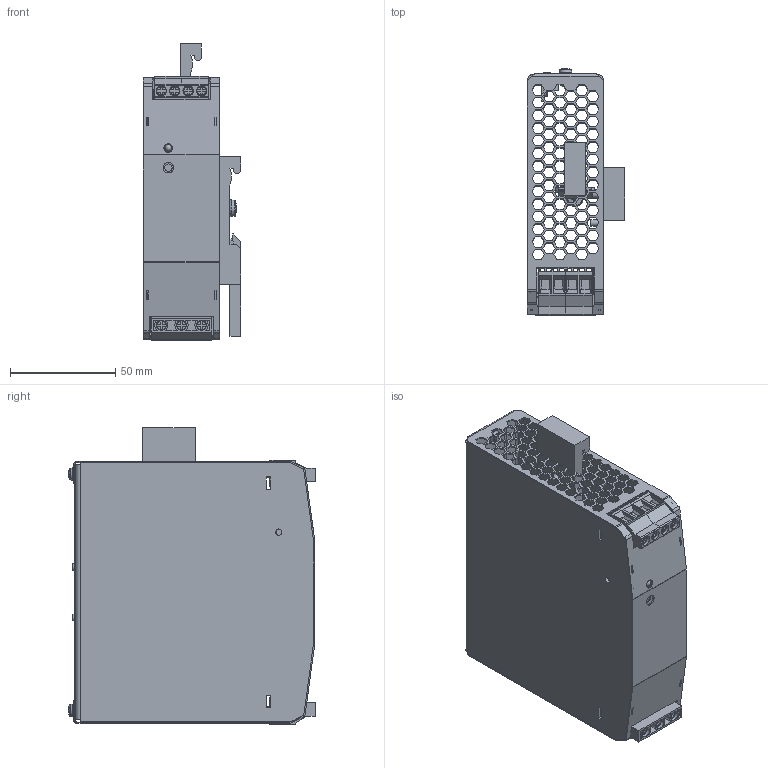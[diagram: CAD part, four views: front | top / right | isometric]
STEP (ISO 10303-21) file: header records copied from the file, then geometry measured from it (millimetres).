
FILE_DESCRIPTION( ( 'Unknown' ), '1' );
FILE_NAME( 'J:/DESBAKUP/3D DATA/TIB/TIB_120/Customer Model/TIB_120_Option.stp', 'Unknown', ( 'Unknown' ), ( 'Unknown' ), 'PSStep 14.0', 'Unknown', ' ' );
FILE_SCHEMA( ( 'AUTOMOTIVE_DESIGN { 1 0 10303 214 1 1 1 1 }' ) );
Length unit declared in the file: millimetre
Products named in the file (15): Assem1; MODULE; DIN_HOOK; DIN_LATCH; SCREW1-oa0
Bounding box: 46 x 117.03 x 140.55 mm (x, y, z)
Volume: 155578.6 mm3; surface area: 203292.3 mm2
Topology: 28 solids, 28 shells, 4354 faces, 12890 edges, 8684 vertices
Faces by surface type: plane 3656, cylinder 390, bspline 160, cone 72, torus 68, sphere 8
Full cylindrical faces by diameter (mm): 0.2 x12, 0.5 x4, 2 x2, 2.459 x4, 3 x24, 3.005 x8, 3.2 x18, 3.5 x10, 3.7 x4, 4 x18, 4.3 x2, 4.5 x6, 4.602 x8, 4.749 x8, 4.77 x6, 4.8 x12, 4.901 x8, 4.904 x8, 5 x2, 5.2 x2, 5.6 x10
Entity records: 95423 total; most frequent: CARTESIAN_POINT 20796, ORIENTED_EDGE 12418, DIRECTION 10380, EDGE_CURVE 6209, LINE 5214, VECTOR 5214, VERTEX_POINT 4267, EDGE_LOOP 2812
